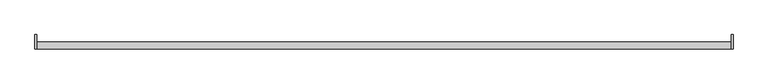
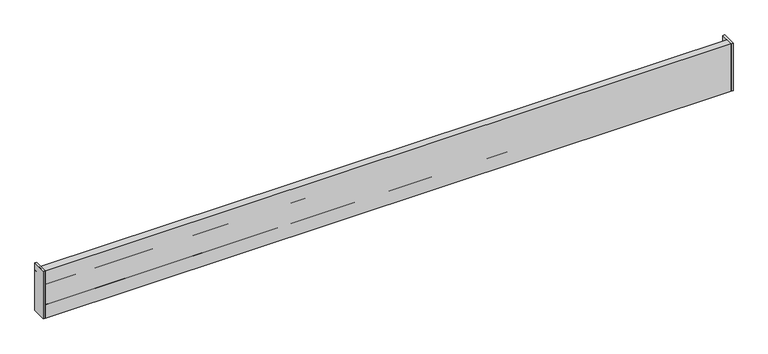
"""IFC4 building model written with IfcOpenShell, lengths in millimetres: furniture geometry."""

import ifcopenshell
import ifcopenshell.guid

model = None  # the IFC model being written
_history = None  # IfcOwnerHistory: only IFC2X3 demands one
_inside = {}  # id of a spatial element -> (the spatial element, [elements in it])
_under = {}  # id of a project, library or spatial element -> (it, [spatial elements below it])
_declared = {}  # id of a project -> (the project, [libraries it declares])
_typed = {}  # id of a type object -> (the type object, [elements of that type])
_made_of = {}  # id of a material, layer set ... -> (it, [elements and type objects made of it])


def new_model(schema):
    """Start an empty IFC model of exactly this schema.

    Asked for "IFC4X3", IfcOpenShell would pick the latest addendum, in which some entities
    have other attributes; the version numbers below select the first issue.
    IFC2X3 requires an IfcOwnerHistory on every rooted entity: one is made here for all.
    """
    global model, _history
    if schema == "IFC4X3":
        model = ifcopenshell.file(schema_version=(4, 3, 0, 0))
    else:
        model = ifcopenshell.file(schema=schema)
    _inside.clear()
    _under.clear()
    _declared.clear()
    _typed.clear()
    _made_of.clear()
    _history = None
    if model.schema == "IFC2X3":
        org = make("IfcOrganization", Name="unknown")
        user = make(
            "IfcPersonAndOrganization",
            ThePerson=make("IfcPerson", FamilyName="unknown"),
            TheOrganization=org,
        )
        app = make(
            "IfcApplication",
            ApplicationDeveloper=org,
            Version="unknown",
            ApplicationFullName="unknown",
            ApplicationIdentifier="unknown",
        )
        _history = make(
            "IfcOwnerHistory",
            OwningUser=user,
            OwningApplication=app,
            ChangeAction="ADDED",
            CreationDate=0,
        )
    return model


def make(cls, **values):
    """One entity of the class cls with the attributes given. An attribute that is None is left unset."""
    return model.create_entity(
        cls, **{name: value for name, value in values.items() if value is not None}
    )


def rooted(cls, **values):
    """An entity with a GlobalId (a new one), such as an element, a storey or a relation."""
    return make(cls, GlobalId=ifcopenshell.guid.new(), OwnerHistory=_history, **values)


def si_unit(unit_type, name, prefix=None):
    """IfcSIUnit, for example si_unit("LENGTHUNIT", "METRE", prefix="MILLI")."""
    return make("IfcSIUnit", UnitType=unit_type, Prefix=prefix, Name=name)


def assignment(units):
    """IfcUnitAssignment: the units of a project."""
    return None if units is None else make("IfcUnitAssignment", Units=units)


def point(xyz):
    """IfcCartesianPoint."""
    return None if xyz is None else make("IfcCartesianPoint", Coordinates=xyz)


def direction(xyz):
    """IfcDirection."""
    return None if xyz is None else make("IfcDirection", DirectionRatios=xyz)


def frame(location, z_axis=None, x_axis=None):
    """IfcAxis2Placement3D, a coordinate frame: its origin and axes. An axis left out is left unset."""
    return make(
        "IfcAxis2Placement3D",
        Location=point(location),
        Axis=direction(z_axis),
        RefDirection=direction(x_axis),
    )


def origin():
    """The frame at (0, 0, 0) with its axes left unset."""
    return frame((0.0, 0.0, 0.0))


def place(relative_to, where):
    """IfcLocalPlacement: puts the frame where relative to a parent placement (None: the world)."""
    return make(
        "IfcLocalPlacement", PlacementRelTo=relative_to, RelativePlacement=where
    )


def context(
    kind, dimensions, precision=None, world=None, true_north=None, identifier=None
):
    """IfcGeometricRepresentationContext, for example the 3D "Model" context."""
    return make(
        "IfcGeometricRepresentationContext",
        ContextIdentifier=identifier,
        ContextType=kind,
        CoordinateSpaceDimension=dimensions,
        Precision=precision,
        WorldCoordinateSystem=world,
        TrueNorth=true_north,
    )


def project(units=None, contexts=None):
    """IfcProject with its units and contexts."""
    return rooted(
        "IfcProject",
        Name="project",
        RepresentationContexts=contexts,
        UnitsInContext=assignment(units),
    )


def spatial(cls, under=None, at=None, **own):
    """A site, building, storey or space (cls), placed at a placement, below another one or the project."""
    s = rooted(cls, ObjectPlacement=at, **own)
    if under is not None:
        _under.setdefault(under.id(), (under, []))[1].append(s)
    return s


def polyline(points):
    """IfcPolyline through the points."""
    return make("IfcPolyline", Points=[point(p) for p in points])


def outline(outer, holes=None, kind="AREA"):
    """IfcArbitraryClosedProfileDef: a profile drawn as a closed curve; with holes, ...WithVoids."""
    if holes is None:
        return make("IfcArbitraryClosedProfileDef", ProfileType=kind, OuterCurve=outer)
    return make(
        "IfcArbitraryProfileDefWithVoids",
        ProfileType=kind,
        OuterCurve=outer,
        InnerCurves=holes,
    )


def extrude(swept, where, along, depth):
    """IfcExtrudedAreaSolid: the profile swept, set in the frame where, extruded along a direction by depth."""
    return make(
        "IfcExtrudedAreaSolid",
        SweptArea=swept,
        Position=where,
        ExtrudedDirection=direction(along),
        Depth=depth,
    )


def shape(context_of_items, identifier, shape_type, items):
    """IfcShapeRepresentation: the items that make up one representation, for example the "Body"."""
    return make(
        "IfcShapeRepresentation",
        ContextOfItems=context_of_items,
        RepresentationIdentifier=identifier,
        RepresentationType=shape_type,
        Items=items,
    )


def source(mapping_origin, context_of_items, identifier, shape_type, items):
    """IfcRepresentationMap: a shape defined once, which mapped items show again and again."""
    return make(
        "IfcRepresentationMap",
        MappingOrigin=mapping_origin,
        MappedRepresentation=shape(context_of_items, identifier, shape_type, items),
    )


def transform(
    local_origin,
    x_axis=None,
    y_axis=None,
    z_axis=None,
    scale=None,
    scale2=None,
    scale3=None,
    uniform=True,
):
    """IfcCartesianTransformationOperator3D, or its non-uniform kind. x_axis, y_axis, z_axis: its Axis1, 2, 3."""
    if uniform:
        return make(
            "IfcCartesianTransformationOperator3D",
            Axis1=direction(x_axis),
            Axis2=direction(y_axis),
            LocalOrigin=point(local_origin),
            Scale=scale,
            Axis3=direction(z_axis),
        )
    return make(
        "IfcCartesianTransformationOperator3DnonUniform",
        Axis1=direction(x_axis),
        Axis2=direction(y_axis),
        LocalOrigin=point(local_origin),
        Scale=scale,
        Axis3=direction(z_axis),
        Scale2=scale2,
        Scale3=scale3,
    )


def mapped(mapping_source, mapping_target):
    """IfcMappedItem: shows the shape of a source again, moved by a transform."""
    return make(
        "IfcMappedItem", MappingSource=mapping_source, MappingTarget=mapping_target
    )


def made_of(thing, what):
    """Note that an element or type object is made of a material, layer set ...; save() writes the relation."""
    if what is not None:
        _made_of.setdefault(what.id(), (what, []))[1].append(thing)
    return thing


def element(
    cls,
    number,
    at=None,
    inside=None,
    cuts=None,
    type_object=None,
    material=None,
    context=None,
    identifier="Body",
    shape_type=None,
    held_by="IfcProductDefinitionShape",
    body=None,
    shapes=None,
    **own,
):
    """One element of the class cls, such as IfcWall. Its Tag is "e" and its number.

    at: its placement. inside: the storey or other place that contains it. cuts: it is an
    opening in that element (IfcRelVoidsElement). A single representation is given by context,
    identifier, shape_type and body (its items); several are given by shapes. held_by: the class
    of the entity that holds the representations. save() writes the other relations.
    """
    e = rooted(cls, Tag="e%d" % number, ObjectPlacement=at, **own)
    if body is not None:
        shapes = [shape(context, identifier, shape_type, body)]
    if shapes is not None:
        e.Representation = make(held_by, Representations=shapes)
    if inside is not None:
        _inside.setdefault(inside.id(), (inside, []))[1].append(e)
    if cuts is not None:
        rooted(
            "IfcRelVoidsElement", RelatingBuildingElement=cuts, RelatedOpeningElement=e
        )
    if type_object is not None:
        _typed.setdefault(type_object.id(), (type_object, []))[1].append(e)
    return made_of(e, material)


def aggregate(whole, parts):
    """IfcRelAggregates: a whole, such as a stair, and the parts it consists of."""
    return rooted("IfcRelAggregates", RelatingObject=whole, RelatedObjects=parts)


def save(model, path):
    """Write the relations noted so far, then the file.

    IfcRelAggregates (storeys below a building ...), IfcRelContainedInSpatialStructure (elements
    in a storey), IfcRelDefinesByType, IfcRelAssociatesMaterial and IfcRelDeclares: one each for
    every whole, place, type object, material and project.
    """
    for whole, parts in _under.values():
        aggregate(whole, parts)
    for where, things in _inside.values():
        rooted(
            "IfcRelContainedInSpatialStructure",
            RelatedElements=things,
            RelatingStructure=where,
        )
    for kind, things in _typed.values():
        rooted("IfcRelDefinesByType", RelatedObjects=things, RelatingType=kind)
    for what, things in _made_of.values():
        rooted("IfcRelAssociatesMaterial", RelatedObjects=things, RelatingMaterial=what)
    for by, libraries in _declared.values():
        rooted("IfcRelDeclares", RelatingContext=by, RelatedDefinitions=libraries)
    model.write(path)


def furniture_8ad8b8e1(model_context):
    return source(origin(), model_context, "Body", "SweptSolid", [
        extrude(outline(polyline([(-606.425, 12.6999996), (-606.425, -12.7000004), (-609.6, -12.7000004), (-609.6, 12.6999996), (-606.425, 12.6999996)])), frame((0.0, 0.0, 825.5), z_axis=(0.0, 0.0, 1.0), x_axis=(1.0, 0.0, 0.0)), (0.0, 0.0, 1.0), 88.9),
        extrude(outline(polyline([(609.6, 12.6999996), (609.6, -12.7000004), (606.425, -12.7000004), (606.425, 12.6999996), (609.6, 12.6999996)])), frame((0.0, 0.0, 825.5), z_axis=(0.0, 0.0, 1.0), x_axis=(1.0, 0.0, 0.0)), (0.0, 0.0, 1.0), 88.9),
        extrude(outline(polyline([(606.425, 0.0), (606.425, -12.7000004), (-606.425, -12.7000004), (-606.425, 0.0), (606.425, 0.0)])), frame((0.0, 0.0, 825.5), z_axis=(0.0, 0.0, 1.0), x_axis=(1.0, 0.0, 0.0)), (0.0, 0.0, 1.0), 88.9),
        extrude(outline(polyline([(-12.7000004, 901.6999966), (-12.7000004, 914.4), (0.0, 914.4), (0.0, 825.5), (-12.7000004, 825.5), (-12.7000004, 850.8999966), (-3.1750002, 850.8999966), (-3.1750002, 863.5999966), (-12.7000004, 863.5999966), (-12.7000004, 888.9999966), (-3.1750002, 888.9999966), (-3.1750002, 901.6999966), (-12.7000004, 901.6999966)])), frame((-606.425, 0.0, 0.0), z_axis=(1.0, 0.0, 0.0), x_axis=(0.0, 1.0, 0.0)), (0.0, 0.0, 1.0), 1212.85),
        extrude(outline(polyline([(-12.7000004, 914.4), (0.0, 914.4), (0.0, 901.6999966), (12.6999996, 901.6999966), (12.6999996, 838.199997), (0.0, 838.199997), (0.0, 825.5), (-12.7000004, 825.5), (-12.7000004, 914.4)])), frame((-609.6, 0.0, 0.0), z_axis=(1.0, 0.0, 0.0), x_axis=(0.0, 1.0, 0.0)), (0.0, 0.0, 1.0), 3.175),
        extrude(outline(polyline([(-12.7000004, 914.4), (0.0, 914.4), (0.0, 901.6999966), (12.6999996, 901.6999966), (12.6999996, 838.199997), (0.0, 838.199997), (0.0, 825.5), (-12.7000004, 825.5), (-12.7000004, 914.4)])), frame((606.425, 0.0, 0.0), z_axis=(1.0, 0.0, 0.0), x_axis=(0.0, 1.0, 0.0)), (0.0, 0.0, 1.0), 3.175),
    ])


if __name__ == "__main__":
    model = new_model("IFC4")
    model_context = context("Model", 3, world=origin())
    ifc_project = project(units=[si_unit("LENGTHUNIT", "METRE", prefix="MILLI")], contexts=[model_context])
    site = spatial("IfcSite", under=ifc_project)
    building = spatial("IfcBuilding", under=site)
    placement = place(None, origin())
    furniture_shape = furniture_8ad8b8e1(model_context)
    element("IfcFurniture", 1, ObjectType="HermanMiller_ActionOffice_A3610_ToolBar : 4\"H x 48\"W", at=placement, inside=building, context=model_context, shape_type="MappedRepresentation", body=[
        mapped(furniture_shape, transform((0.0, 0.0, 0.0), x_axis=(1.0, 0.0, 0.0), y_axis=(0.0, 1.0, 0.0), z_axis=(0.0, 0.0, 1.0))),
    ])
    save(model, "model.ifc")
